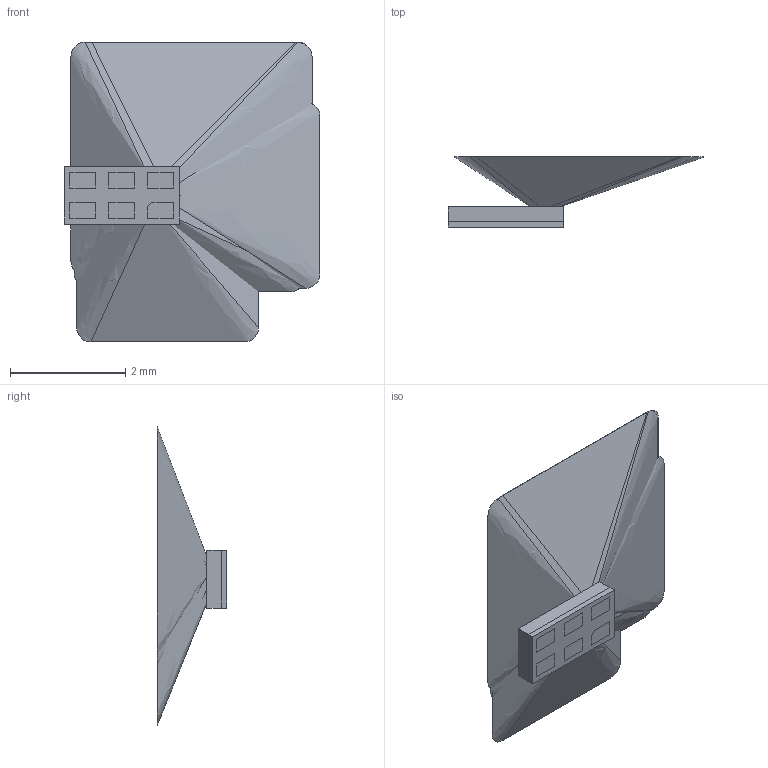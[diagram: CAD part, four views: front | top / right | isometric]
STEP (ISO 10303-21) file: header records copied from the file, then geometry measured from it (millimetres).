
FILE_DESCRIPTION (( 'STEP AP214' ), '1' );
FILE_NAME ('TSL25853P FOV Cones.STEP', '2022-02-10T03:47:43', ( '' ), ( '' ), 'SwSTEP 2.0', 'SolidWorks 2020', '' );
FILE_SCHEMA (( 'AUTOMOTIVE_DESIGN' ));
Length unit declared in the file: millimetre
Products named in the file (12): 2IR FoV Cone; 1Photopic FoV Cone; 3UVA FoV Cone; 5Photopic FoV Cone; SUBSTRATE CORE_1.0 x 2.0 - STEP; TSL25853P DIE_STEP FILE; 0IR FoV Cone; TSL25853P FOV Cones; 4UVA FoV Cone; TSL25853P CLEAR MOLD_STEP FILE; Angular Response Cone; TSL25853P Substrate_1.0 x 2.0 - STEP
Assembly tree (12 placements, depth 3):
  TSL25853P FOV Cones
    TSL25853P Substrate_1.0 x 2.0 - STEP
      SUBSTRATE CORE_1.0 x 2.0 - STEP
    TSL25853P DIE_STEP FILE
    TSL25853P CLEAR MOLD_STEP FILE
    3UVA FoV Cone
    1Photopic FoV Cone
    5Photopic FoV Cone
    0IR FoV Cone
    4UVA FoV Cone
    2IR FoV Cone
    Angular Response Cone  x2
Bounding box: 4.44 x 1.22 x 5.21 mm (x, y, z)
Surface area: 220.1 mm2
Topology: 11 solids, 11 shells, 104 faces, 253 edges, 177 vertices
Faces by surface type: plane 83, bspline 21
Entity records: 3849 total; most frequent: CARTESIAN_POINT 1014, ORIENTED_EDGE 458, DIRECTION 441, EDGE_CURVE 229, LINE 201, VECTOR 201, VERTEX_POINT 161, AXIS2_PLACEMENT_3D 120
